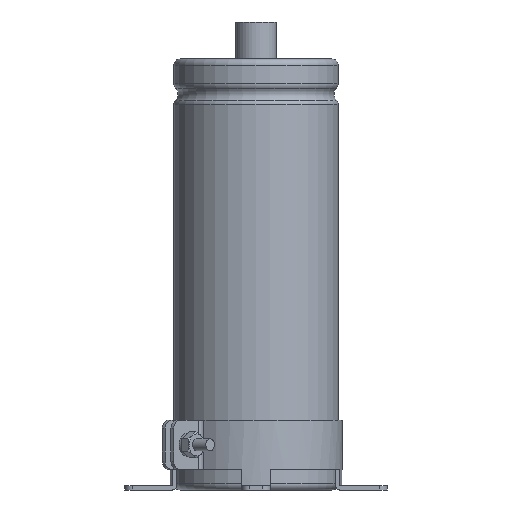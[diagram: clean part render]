
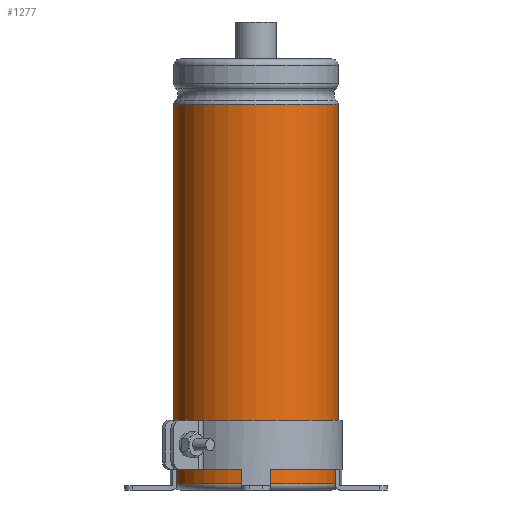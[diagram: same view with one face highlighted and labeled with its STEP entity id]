
A CAD part, front view. The second image highlights one B-rep face of the part: STEP entity #1277.
In plain terms, the highlighted cylindrical face has radius 20 mm (diameter 40 mm), a partial arc.
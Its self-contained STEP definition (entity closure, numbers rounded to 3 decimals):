
#172=LINE('',#6556,#376);
#173=LINE('',#6560,#377);
#376=VECTOR('',#5196,1.);
#377=VECTOR('',#5199,1.);
#946=FACE_OUTER_BOUND('',#1722,.T.);
#1277=ADVANCED_FACE('',(#946),#1500,.T.);
#1500=CYLINDRICAL_SURFACE('',#4544,20.);
#1722=EDGE_LOOP('',(#2121,#2122,#2123,#2124));
#2121=ORIENTED_EDGE('',*,*,#3656,.T.);
#2122=ORIENTED_EDGE('',*,*,#3657,.T.);
#2123=ORIENTED_EDGE('',*,*,#3658,.F.);
#2124=ORIENTED_EDGE('',*,*,#3659,.F.);
#3232=VERTEX_POINT('',#6549);
#3234=VERTEX_POINT('',#6553);
#3235=VERTEX_POINT('',#6557);
#3236=VERTEX_POINT('',#6559);
#3656=EDGE_CURVE('',#3232,#3234,#4216,.T.);
#3657=EDGE_CURVE('',#3234,#3235,#172,.T.);
#3658=EDGE_CURVE('',#3236,#3235,#4217,.T.);
#3659=EDGE_CURVE('',#3232,#3236,#173,.T.);
#4216=CIRCLE('',#4541,20.);
#4217=CIRCLE('',#4543,20.);
#4541=AXIS2_PLACEMENT_3D('',#6554,#5192,#5193);
#4543=AXIS2_PLACEMENT_3D('',#6558,#5197,#5198);
#4544=AXIS2_PLACEMENT_3D('',#6561,#5200,#5201);
#5192=DIRECTION('',(0.,0.,-1.));
#5193=DIRECTION('',(0.,1.,0.));
#5196=DIRECTION('',(0.,0.,-1.));
#5197=DIRECTION('',(0.,0.,-1.));
#5198=DIRECTION('',(0.,1.,0.));
#5199=DIRECTION('',(0.,0.,-1.));
#5200=DIRECTION('',(0.,0.,-1.));
#5201=DIRECTION('',(0.,1.,0.));
#6549=CARTESIAN_POINT('',(3.987,19.598,93.9));
#6553=CARTESIAN_POINT('',(-3.987,19.598,93.9));
#6554=CARTESIAN_POINT('',(0.,0.,93.9));
#6556=CARTESIAN_POINT('',(-3.987,19.598,93.9));
#6557=CARTESIAN_POINT('',(-3.987,19.598,1.5));
#6558=CARTESIAN_POINT('',(0.,0.,1.5));
#6559=CARTESIAN_POINT('',(3.987,19.598,1.5));
#6560=CARTESIAN_POINT('',(3.987,19.598,93.9));
#6561=CARTESIAN_POINT('',(0.,0.,0.));
